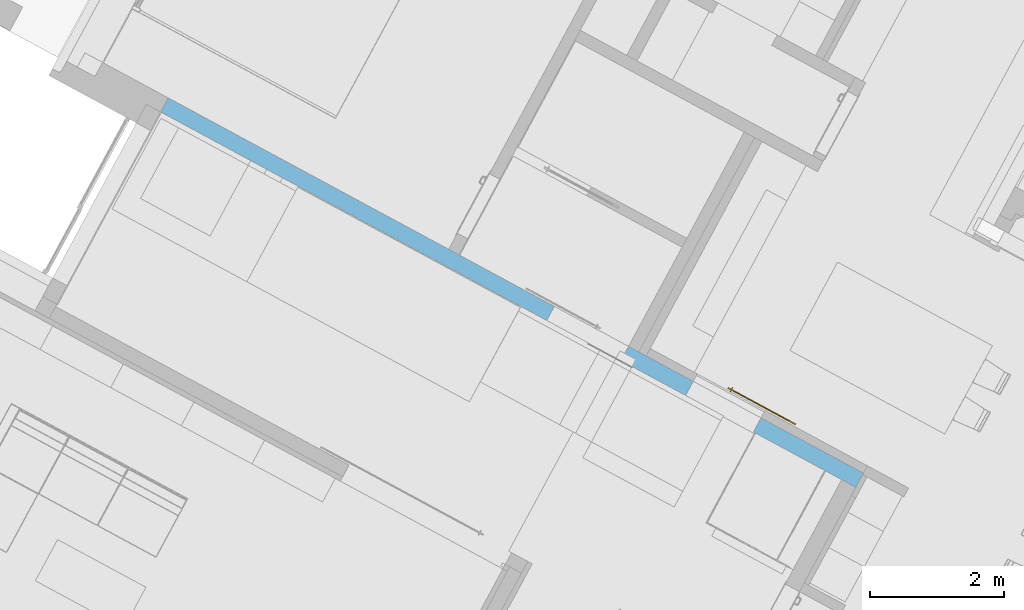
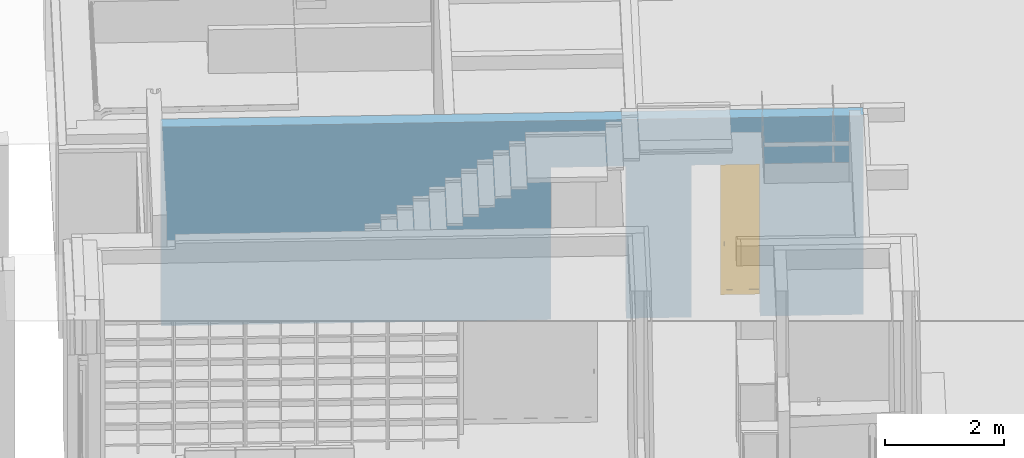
# One storey, part 15 of 52: 1 door, 2 openings, plus 1 element that does not belong to this part.
"""IFC2X3 building model written with IfcOpenShell, lengths in metres."""

from ifc_helpers import new_model, entity, si_unit, converted_unit, derived_unit, money_unit, direction, frame, origin_with_axes, origin_2d_with_axis, place, context, subcontext, project, spatial, rectangle, extrude, faceted_brep, material, type_object, element, fill, save


model = new_model("IFC2X3")

# Units and contexts
model_context = context("Model", 3, precision=1e-05, world=origin_with_axes(), true_north=direction((0.0, 1.0)))
body_context = subcontext(model_context, "Body", "Model", "MODEL_VIEW")
ifc_project = project(units=[si_unit("LENGTHUNIT", "METRE"), si_unit("AREAUNIT", "SQUARE_METRE"), si_unit("VOLUMEUNIT", "CUBIC_METRE"), converted_unit("PLANEANGLEUNIT", "DEGREE", entity("IfcPlaneAngleMeasure", 0.0174532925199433), si_unit("PLANEANGLEUNIT", "RADIAN"), dimensions=[0, 0, 0, 0, 0, 0, 0]), money_unit("EUR"), converted_unit("TIMEUNIT", "Year", entity("IfcTimeMeasure", 31556926.0), si_unit("TIMEUNIT", "SECOND"), dimensions=[0, 0, 1, 0, 0, 0, 0]), si_unit("MASSUNIT", "GRAM", prefix="KILO"), si_unit("THERMODYNAMICTEMPERATUREUNIT", "DEGREE_CELSIUS"), si_unit("LUMINOUSINTENSITYUNIT", "LUMEN"), si_unit("ENERGYUNIT", "JOULE", prefix="MEGA"), derived_unit("THERMALCONDUCTANCEUNIT", [(si_unit("POWERUNIT", "WATT"), 1), (si_unit("LENGTHUNIT", "METRE"), -1), (si_unit("THERMODYNAMICTEMPERATUREUNIT", "KELVIN"), -1)]), derived_unit("SPECIFICHEATCAPACITYUNIT", [(si_unit("ENERGYUNIT", "JOULE"), 1), (si_unit("MASSUNIT", "GRAM", prefix="KILO"), -1), (si_unit("THERMODYNAMICTEMPERATUREUNIT", "KELVIN"), -1)]), derived_unit("MASSDENSITYUNIT", [(si_unit("MASSUNIT", "GRAM", prefix="KILO"), 1), (si_unit("VOLUMEUNIT", "CUBIC_METRE"), -1)])], contexts=[model_context])

# Site, building, storey
site_placement = place(None, frame((-3.949935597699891, 1.740105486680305, 0.0), z_axis=(0.0, 0.0, 1.0), x_axis=(0.8799804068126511, -0.475009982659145, 0.0)))
site = spatial("IfcSite", under=ifc_project, at=site_placement, Name="Gelände", CompositionType="ELEMENT")
building_placement = place(site_placement, origin_with_axes())
building = spatial("IfcBuilding", under=site, at=building_placement, Name="Gebäude", CompositionType="ELEMENT")
storey_placement = place(building_placement, origin_with_axes())
storey = spatial("IfcBuildingStorey", under=building, at=storey_placement, Name="Erdgeschoss", CompositionType="ELEMENT", Elevation=0.0)

# Wall, openings, door
ifc_material = material(Name="_SIWH - Beton, Stahlbeton")
wall_type = type_object("IfcWallType", Name="_SIWH - WI | Stb. 24 | 24cm 240", PredefinedType="NOTDEFINED")
wall_placement = place(storey_placement, frame((5.59748143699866, 10.89780061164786, -0.18), z_axis=(0.0, 0.0, 1.0), x_axis=(0.9999999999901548, 4.437408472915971e-06, 0.0)))
wall = element("IfcWall", 1, at=wall_placement, inside=storey, type_object=wall_type, material=ifc_material, Name="I-Wand002", context=body_context, shape_type="Brep", body=[
    faceted_brep([(8.920006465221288, -3.958171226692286e-05, 3.12), (8.920006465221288, -3.958171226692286e-05, 0.18), (8.920005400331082, -3.958170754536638e-05, 0.0), (7.820006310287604, -3.470056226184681e-05, 0.0), (7.820007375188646, -3.470056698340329e-05, 0.18), (7.820007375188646, -3.470056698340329e-05, 3.12), (6.560007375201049, -2.910943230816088e-05, 3.12), (6.560007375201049, -2.910943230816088e-05, 0.18), (6.560006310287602, -2.91094275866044e-05, 0.0), (0.0, 0.0, 0.0), (0.0, 0.0, 4.080000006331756), (11.81000680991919, -5.240582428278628e-05, 4.080000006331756), (11.81000680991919, -5.240582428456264e-05, 0.0), (10.07000540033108, -4.46847272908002e-05, 0.0), (10.07000646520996, -4.468473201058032e-05, 0.18), (10.07000646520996, -4.468473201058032e-05, 3.12), (8.920005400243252, -0.2400395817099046, 3.12), (8.920005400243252, -0.2400395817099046, 0.18), (8.920005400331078, -0.2400395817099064, 0.0), (7.820006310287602, -0.2400347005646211, 0.0), (7.820006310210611, -0.2400347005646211, 0.18), (7.820006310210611, -0.2400347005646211, 3.12), (6.560006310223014, -0.2400291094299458, 3.12), (6.560006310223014, -0.2400291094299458, 0.18), (6.560006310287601, -0.2400291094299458, 0.0), (-1.064978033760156e-06, -0.2399999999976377, 0.0), (-1.064978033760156e-06, -0.2399999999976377, 4.080000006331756), (11.81000574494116, -0.2400524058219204, 4.080000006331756), (11.81000574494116, -0.2400524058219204, 0.0), (10.07000540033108, -0.2400446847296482, 0.0), (10.07000540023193, -0.2400446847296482, 0.18), (10.07000540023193, -0.2400446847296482, 3.12)], [[[0, 1, 2, 3, 4, 5, 6, 7, 8, 9, 10, 11, 12, 13, 14, 15]], [[1, 0, 16, 17]], [[1, 17, 18, 2]], [[18, 19, 3, 2]], [[4, 3, 19, 20]], [[4, 20, 21, 5]], [[5, 21, 22, 6]], [[6, 22, 23, 7]], [[23, 24, 8, 7]], [[24, 25, 9, 8]], [[25, 26, 10, 9]], [[27, 11, 10, 26]], [[11, 27, 28, 12]], [[13, 12, 28, 29]], [[30, 14, 13, 29]], [[15, 14, 30, 31]], [[0, 15, 31, 16]], [[31, 30, 29, 28, 27, 26, 25, 24, 23, 22, 21, 20, 19, 18, 17, 16]]]),
])
opening_1_placement = place(wall_placement, frame((7.190006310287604, 0.0, 0.18), z_axis=(0.0, 0.0, 1.0), x_axis=(1.0, 0.0, 0.0)))
element("IfcOpeningElement", 2, at=opening_1_placement, cuts=wall, Name="Tür-024", context=body_context, shape_type="SweptSolid", body=[
    extrude(rectangle(XDim=1.260000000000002, YDim=2.94, at=origin_2d_with_axis()), frame((1.153655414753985e-06, 0.01996809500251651, 1.47), z_axis=(4.437408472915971e-06, 0.9999999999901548, 0.0), x_axis=(0.9999999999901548, -4.437408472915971e-06, 0.0)), (0.0, 0.0, -1.0), 0.5),
    extrude(rectangle(XDim=1.260000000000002, YDim=2.94, at=origin_2d_with_axis()), frame((1.153655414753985e-06, 0.01996809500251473, 1.47), z_axis=(-4.437408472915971e-06, -0.9999999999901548, 0.0), x_axis=(0.9999999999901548, -4.437408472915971e-06, 0.0)), (0.0, 0.0, -1.0), 0.26),
])
opening_2_placement = place(wall_placement, frame((9.495005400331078, 0.0, 0.18), z_axis=(0.0, 0.0, 1.0), x_axis=(1.0, 0.0, 0.0)))
opening_2 = element("IfcOpeningElement", 3, at=opening_2_placement, cuts=wall, Name="Tür-024", context=body_context, shape_type="SweptSolid", body=[
    extrude(rectangle(XDim=1.149999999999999, YDim=2.94, at=origin_2d_with_axis()), frame((0.0, -0.2400000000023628, 1.47), z_axis=(-4.437408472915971e-06, -0.9999999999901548, 0.0), x_axis=(-0.9999999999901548, 4.437408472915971e-06, 0.0)), (0.0, 0.0, -1.0), 0.895),
])
door_style = type_object("IfcDoorStyle", Name="Schiebetür 02 1-Fl 26", ConstructionType="NOTDEFINED", OperationType="SLIDING_TO_LEFT", ParameterTakesPrecedence=False, Sizeable=False)
door_placement = place(opening_2_placement, frame((-0.5750000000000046, 0.0, 0.0), z_axis=(0.0, 0.0, 1.0), x_axis=(1.0, 0.0, 0.0)))
door = element("IfcDoor", 4, at=door_placement, inside=storey, type_object=door_style, Name="Tür-024", OverallHeight=2.94, OverallWidth=1.15, context=body_context, shape_type="Brep", body=[
    faceted_brep([(1.64995181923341, 0.1699530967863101, 0.09999999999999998), (1.64995173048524, 0.1499530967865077, 0.09999999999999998), (1.549951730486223, 0.1499535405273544, 0.09999999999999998), (1.549951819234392, 0.1699535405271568, 0.09999999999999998), (1.64995181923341, 0.1699530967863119, 2.8399), (1.64995173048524, 0.1499530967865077, 2.8399), (1.549951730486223, 0.1499535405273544, 2.8399), (1.549951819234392, 0.1699535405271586, 2.8399)], [[[0, 1, 2, 3]], [[4, 5, 1, 0]], [[1, 5, 6, 2]], [[3, 2, 6, 7]], [[0, 3, 7, 4]], [[7, 6, 5, 4]]]),
    faceted_brep([(0.5000518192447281, 0.1699581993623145, 2.8399), (0.5000517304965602, 0.1499581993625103, 2.8399), (0.6000517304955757, 0.1499577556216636, 2.8399), (0.6000518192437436, 0.1699577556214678, 2.8399), (0.5000518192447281, 0.1699581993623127, 0.09999999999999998), (0.5000517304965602, 0.1499581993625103, 0.09999999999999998), (0.6000517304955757, 0.1499577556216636, 0.09999999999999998), (0.6000518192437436, 0.169957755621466, 0.09999999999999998)], [[[0, 1, 2, 3]], [[4, 5, 1, 0]], [[1, 5, 6, 2]], [[3, 2, 6, 7]], [[0, 3, 7, 4]], [[7, 6, 5, 4]]]),
    faceted_brep([(0.5000518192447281, 0.1699581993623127, 0.0), (0.5000517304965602, 0.1499581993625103, 0.0), (0.5000517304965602, 0.1499581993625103, 0.09999999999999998), (0.5000518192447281, 0.1699581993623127, 0.09999999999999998), (1.64995181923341, 0.1699530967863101, 0.0), (1.64995173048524, 0.1499530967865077, 0.0), (1.64995173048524, 0.1499530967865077, 0.09999999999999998), (1.549951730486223, 0.1499535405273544, 0.09999999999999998), (0.6000517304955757, 0.1499577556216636, 0.09999999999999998), (0.6000518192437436, 0.169957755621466, 0.09999999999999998), (1.549951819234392, 0.1699535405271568, 0.09999999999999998), (1.64995181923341, 0.1699530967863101, 0.09999999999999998)], [[[0, 1, 2, 3]], [[4, 5, 1, 0]], [[1, 5, 6, 7, 8, 2]], [[3, 2, 8, 9]], [[0, 3, 9, 10, 11, 4]], [[11, 6, 5, 4]], [[10, 7, 6, 11]], [[9, 8, 7, 10]]]),
    faceted_brep([(1.64995181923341, 0.1699530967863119, 2.9399), (1.64995173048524, 0.1499530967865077, 2.9399), (1.64995173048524, 0.1499530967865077, 2.8399), (1.64995181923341, 0.1699530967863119, 2.8399), (0.5000518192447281, 0.1699581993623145, 2.9399), (0.5000517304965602, 0.1499581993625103, 2.9399), (0.5000517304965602, 0.1499581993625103, 2.8399), (0.6000517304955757, 0.1499577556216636, 2.8399), (1.549951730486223, 0.1499535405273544, 2.8399), (1.549951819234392, 0.1699535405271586, 2.8399), (0.6000518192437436, 0.1699577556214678, 2.8399), (0.5000518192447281, 0.1699581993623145, 2.8399)], [[[0, 1, 2, 3]], [[4, 5, 1, 0]], [[1, 5, 6, 7, 8, 2]], [[3, 2, 8, 9]], [[0, 3, 9, 10, 11, 4]], [[11, 6, 5, 4]], [[10, 7, 6, 11]], [[9, 8, 7, 10]]]),
    faceted_brep([(1.549951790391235, 0.1634535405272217, 0.09999999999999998), (1.549951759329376, 0.1564535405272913, 0.09999999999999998), (0.6000517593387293, 0.1564577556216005, 0.09999999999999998), (0.60005179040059, 0.1634577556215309, 0.09999999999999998), (1.549951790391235, 0.1634535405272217, 2.8399), (1.549951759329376, 0.1564535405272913, 2.8399), (0.6000517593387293, 0.1564577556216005, 2.8399), (0.60005179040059, 0.1634577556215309, 2.8399)], [[[0, 1, 2, 3]], [[4, 5, 1, 0]], [[1, 5, 6, 2]], [[3, 2, 6, 7]], [[0, 3, 7, 4]], [[7, 6, 5, 4]]]),
    faceted_brep([(0.5670516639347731, 0.134957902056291, 1.085980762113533), (0.5670517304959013, 0.1499579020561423, 1.09), (0.5661139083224, 0.1499579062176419, 1.0935), (0.5661138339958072, 0.1332079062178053, 1.089011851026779), (0.5661138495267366, 0.1367079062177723, 1.082949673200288), (0.5661139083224, 0.1499579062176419, 1.0865), (0.5635517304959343, 0.1499579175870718, 1.083937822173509), (0.5600517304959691, 0.1499579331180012, 1.083), (0.5565517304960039, 0.1499579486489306, 1.083937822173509), (0.5539895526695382, 0.1499579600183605, 1.0865), (0.5530517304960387, 0.1499579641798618, 1.09), (0.5539895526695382, 0.1499579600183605, 1.0935), (0.5565517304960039, 0.1499579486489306, 1.096062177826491), (0.5600517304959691, 0.1499579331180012, 1.097), (0.5635517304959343, 0.1499579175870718, 1.096062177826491), (0.5635516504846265, 0.1319268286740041, 1.091230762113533), (0.567051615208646, 0.1239771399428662, 1.075), (0.5661137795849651, 0.1209460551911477, 1.07675), (0.5635516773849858, 0.137989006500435, 1.080730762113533), (0.5661138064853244, 0.1270082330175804, 1.07325), (0.5600516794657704, 0.1384579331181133, 1.079918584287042), (0.5565516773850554, 0.1379890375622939, 1.080730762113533), (0.5539894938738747, 0.1367079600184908, 1.082949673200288), (0.5530516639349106, 0.1349579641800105, 1.085980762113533), (0.5539894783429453, 0.1332079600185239, 1.089011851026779), (0.5565516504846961, 0.1319268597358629, 1.091230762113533), (0.5600516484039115, 0.1314579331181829, 1.092042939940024), (0.5635515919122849, 0.1187271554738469, 1.078031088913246), (0.5670515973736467, 0.1199579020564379, 1.06), (0.5661137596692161, 0.1164579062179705, 1.06), (0.563551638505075, 0.1292271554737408, 1.071968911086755), (0.5661137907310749, 0.1234579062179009, 1.06), (0.5600516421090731, 0.1300393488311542, 1.0715), (0.5565516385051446, 0.1292271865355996, 1.071968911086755), (0.5539894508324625, 0.1270082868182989, 1.07325), (0.5530516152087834, 0.1239772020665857, 1.075), (0.5539894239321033, 0.1209461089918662, 1.07675), (0.5565515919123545, 0.1187271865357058, 1.078031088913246), (0.5600515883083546, 0.1179149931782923, 1.0785), (0.5635515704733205, 0.1138957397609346, 1.06), (0.5600515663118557, 0.1129579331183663, 1.06), (0.5565515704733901, 0.1138957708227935, 1.06), (0.5539894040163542, 0.116457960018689, 1.06), (0.5530515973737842, 0.1199579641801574, 1.06), (0.5539894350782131, 0.1234579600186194, 1.06), (0.5565516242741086, 0.1260201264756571, 1.06), (0.5600516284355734, 0.1269579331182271, 1.06), (0.563551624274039, 0.1260200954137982, 1.06)], [[[0, 1, 2, 3]], [[4, 5, 1, 0]], [[1, 5, 6, 7, 8, 9, 10, 11, 12, 13, 14, 2]], [[3, 2, 14, 15]], [[16, 0, 3, 17]], [[18, 6, 5, 4]], [[19, 4, 0, 16]], [[20, 7, 6, 18]], [[21, 8, 7, 20]], [[22, 9, 8, 21]], [[23, 10, 9, 22]], [[24, 11, 10, 23]], [[25, 12, 11, 24]], [[26, 13, 12, 25]], [[15, 14, 13, 26]], [[17, 3, 15, 27]], [[28, 16, 17, 29]], [[30, 18, 4, 19]], [[31, 19, 16, 28]], [[32, 20, 18, 30]], [[33, 21, 20, 32]], [[34, 22, 21, 33]], [[35, 23, 22, 34]], [[36, 24, 23, 35]], [[37, 25, 24, 36]], [[38, 26, 25, 37]], [[27, 15, 26, 38]], [[29, 17, 27, 39]], [[28, 29, 39, 40, 41, 42, 43, 44, 45, 46, 47, 31]], [[47, 30, 19, 31]], [[46, 32, 30, 47]], [[45, 33, 32, 46]], [[44, 34, 33, 45]], [[43, 35, 34, 44]], [[42, 36, 35, 43]], [[41, 37, 36, 42]], [[40, 38, 37, 41]], [[39, 27, 38, 40]]]),
    faceted_brep([(0.5530516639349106, 0.1349579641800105, 1.014019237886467), (0.5530517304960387, 0.1499579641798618, 1.01), (0.5539895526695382, 0.1499579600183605, 1.0065), (0.5539894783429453, 0.1332079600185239, 1.010988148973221), (0.5539894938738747, 0.1367079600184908, 1.017050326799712), (0.5539895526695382, 0.1499579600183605, 1.0135), (0.5565517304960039, 0.1499579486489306, 1.016062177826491), (0.5600517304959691, 0.1499579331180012, 1.017), (0.5635517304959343, 0.1499579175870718, 1.016062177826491), (0.5661139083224, 0.1499579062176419, 1.0135), (0.5670517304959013, 0.1499579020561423, 1.01), (0.5661139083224, 0.1499579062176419, 1.0065), (0.5635517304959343, 0.1499579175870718, 1.003937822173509), (0.5600517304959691, 0.1499579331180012, 1.003), (0.5565517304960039, 0.1499579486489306, 1.003937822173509), (0.5565516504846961, 0.1319268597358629, 1.008769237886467), (0.5530516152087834, 0.1239772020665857, 1.025), (0.5539894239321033, 0.1209461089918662, 1.02325), (0.5565516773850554, 0.1379890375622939, 1.019269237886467), (0.5539894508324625, 0.1270082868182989, 1.02675), (0.5600516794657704, 0.1384579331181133, 1.020081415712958), (0.5635516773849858, 0.137989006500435, 1.019269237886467), (0.5661138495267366, 0.1367079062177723, 1.017050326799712), (0.5670516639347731, 0.134957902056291, 1.014019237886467), (0.5661138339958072, 0.1332079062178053, 1.010988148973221), (0.5635516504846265, 0.1319268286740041, 1.008769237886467), (0.5600516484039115, 0.1314579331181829, 1.007957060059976), (0.5565515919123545, 0.1187271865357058, 1.021968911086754), (0.5530515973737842, 0.1199579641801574, 1.04), (0.5539894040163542, 0.116457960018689, 1.04), (0.5565516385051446, 0.1292271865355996, 1.028031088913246), (0.5539894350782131, 0.1234579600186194, 1.04), (0.5600516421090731, 0.1300393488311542, 1.0285), (0.563551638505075, 0.1292271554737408, 1.028031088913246), (0.5661138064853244, 0.1270082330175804, 1.02675), (0.567051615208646, 0.1239771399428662, 1.025), (0.5661137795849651, 0.1209460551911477, 1.02325), (0.5635515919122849, 0.1187271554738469, 1.021968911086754), (0.5600515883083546, 0.1179149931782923, 1.0215), (0.5565515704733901, 0.1138957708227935, 1.04), (0.5600515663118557, 0.1129579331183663, 1.04), (0.5635515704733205, 0.1138957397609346, 1.04), (0.5661137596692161, 0.1164579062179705, 1.04), (0.5670515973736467, 0.1199579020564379, 1.04), (0.5661137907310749, 0.1234579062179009, 1.04), (0.563551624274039, 0.1260200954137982, 1.04), (0.5600516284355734, 0.1269579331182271, 1.04), (0.5565516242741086, 0.1260201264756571, 1.04)], [[[0, 1, 2, 3]], [[4, 5, 1, 0]], [[1, 5, 6, 7, 8, 9, 10, 11, 12, 13, 14, 2]], [[3, 2, 14, 15]], [[16, 0, 3, 17]], [[18, 6, 5, 4]], [[19, 4, 0, 16]], [[20, 7, 6, 18]], [[21, 8, 7, 20]], [[22, 9, 8, 21]], [[23, 10, 9, 22]], [[24, 11, 10, 23]], [[25, 12, 11, 24]], [[26, 13, 12, 25]], [[15, 14, 13, 26]], [[17, 3, 15, 27]], [[28, 16, 17, 29]], [[30, 18, 4, 19]], [[31, 19, 16, 28]], [[32, 20, 18, 30]], [[33, 21, 20, 32]], [[34, 22, 21, 33]], [[35, 23, 22, 34]], [[36, 24, 23, 35]], [[37, 25, 24, 36]], [[38, 26, 25, 37]], [[27, 15, 26, 38]], [[29, 17, 27, 39]], [[28, 29, 39, 40, 41, 42, 43, 44, 45, 46, 47, 31]], [[47, 30, 19, 31]], [[46, 32, 30, 47]], [[45, 33, 32, 46]], [[44, 34, 33, 45]], [[43, 35, 34, 44]], [[42, 36, 35, 43]], [[41, 37, 36, 42]], [[40, 38, 37, 41]], [[39, 27, 38, 40]]]),
    faceted_brep([(0.5670515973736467, 0.1199579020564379, 1.04), (0.5661137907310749, 0.1234579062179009, 1.04), (0.5661137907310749, 0.1234579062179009, 1.06), (0.5670515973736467, 0.1199579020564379, 1.06), (0.5661137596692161, 0.1164579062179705, 1.04), (0.5635515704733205, 0.1138957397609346, 1.04), (0.5600515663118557, 0.1129579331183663, 1.04), (0.5565515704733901, 0.1138957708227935, 1.04), (0.5539894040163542, 0.116457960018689, 1.04), (0.5530515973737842, 0.1199579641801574, 1.04), (0.5539894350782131, 0.1234579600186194, 1.04), (0.5565516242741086, 0.1260201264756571, 1.04), (0.5600516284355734, 0.1269579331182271, 1.04), (0.563551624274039, 0.1260200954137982, 1.04), (0.563551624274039, 0.1260200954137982, 1.06), (0.5600516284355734, 0.1269579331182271, 1.06), (0.5565516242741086, 0.1260201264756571, 1.06), (0.5539894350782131, 0.1234579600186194, 1.06), (0.5530515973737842, 0.1199579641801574, 1.06), (0.5539894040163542, 0.116457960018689, 1.06), (0.5565515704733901, 0.1138957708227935, 1.06), (0.5600515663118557, 0.1129579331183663, 1.06), (0.5635515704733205, 0.1138957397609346, 1.06), (0.5661137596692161, 0.1164579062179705, 1.06)], [[[0, 1, 2, 3]], [[0, 4, 5, 6, 7, 8, 9, 10, 11, 12, 13, 1]], [[1, 13, 14, 2]], [[3, 2, 14, 15, 16, 17, 18, 19, 20, 21, 22, 23]], [[4, 0, 3, 23]], [[5, 4, 23, 22]], [[6, 5, 22, 21]], [[7, 6, 21, 20]], [[8, 7, 20, 19]], [[9, 8, 19, 18]], [[10, 9, 18, 17]], [[11, 10, 17, 16]], [[12, 11, 16, 15]], [[13, 12, 15, 14]]]),
    faceted_brep([(0.5670518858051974, 0.1849579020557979, 1.085980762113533), (0.5661140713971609, 0.1867079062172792, 1.089011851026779), (0.566113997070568, 0.1699579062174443, 1.0935), (0.5670518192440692, 0.1699579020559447, 1.09), (0.5670519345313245, 0.1959386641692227, 1.075), (0.5661141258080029, 0.1989697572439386, 1.07675), (0.56355189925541, 0.1879890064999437, 1.091230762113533), (0.5635518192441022, 0.1699579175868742, 1.096062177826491), (0.560051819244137, 0.1699579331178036, 1.097), (0.5565518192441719, 0.169957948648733, 1.096062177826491), (0.5539896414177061, 0.1699579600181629, 1.0935), (0.5530518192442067, 0.1699579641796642, 1.09), (0.5539896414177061, 0.1699579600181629, 1.0865), (0.5565518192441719, 0.169957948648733, 1.083937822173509), (0.560051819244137, 0.1699579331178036, 1.083), (0.5635518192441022, 0.1699579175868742, 1.083937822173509), (0.566113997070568, 0.1699579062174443, 1.0865), (0.5661140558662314, 0.183207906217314, 1.082949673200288), (0.5670519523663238, 0.1999579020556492, 1.06), (0.566114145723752, 0.203457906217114, 1.06), (0.5635519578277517, 0.2011886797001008, 1.078031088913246), (0.5661140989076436, 0.1929075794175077, 1.07325), (0.5600519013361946, 0.1884579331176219, 1.092042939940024), (0.5565518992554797, 0.1879890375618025, 1.091230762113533), (0.553989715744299, 0.1867079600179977, 1.089011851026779), (0.5530518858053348, 0.1849579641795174, 1.085980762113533), (0.5539897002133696, 0.1832079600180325, 1.082949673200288), (0.5565518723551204, 0.1819268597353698, 1.080730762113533), (0.5600518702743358, 0.1814579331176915, 1.079918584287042), (0.5635518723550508, 0.181926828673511, 1.080730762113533), (0.5661141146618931, 0.1964579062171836, 1.06), (0.5635519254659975, 0.1938957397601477, 1.06), (0.5600519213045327, 0.1929579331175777, 1.06), (0.5565519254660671, 0.1938957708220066, 1.06), (0.5539897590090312, 0.1964579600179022, 1.06), (0.5530519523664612, 0.1999579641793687, 1.06), (0.5539897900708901, 0.2034579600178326, 1.06), (0.5565519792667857, 0.2060201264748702, 1.06), (0.5600519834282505, 0.2069579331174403, 1.06), (0.5635519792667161, 0.2060200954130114, 1.06), (0.5600519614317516, 0.2020008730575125, 1.0785), (0.5635519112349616, 0.1906886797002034, 1.071968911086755), (0.5565519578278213, 0.2011887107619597, 1.078031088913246), (0.5539897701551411, 0.1989698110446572, 1.07675), (0.553051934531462, 0.1959387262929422, 1.075), (0.5539897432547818, 0.1929076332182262, 1.07325), (0.5565519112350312, 0.1906887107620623, 1.071968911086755), (0.5600519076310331, 0.1898765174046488, 1.0715)], [[[0, 1, 2, 3]], [[4, 5, 1, 0]], [[1, 6, 7, 2]], [[3, 2, 7, 8, 9, 10, 11, 12, 13, 14, 15, 16]], [[17, 0, 3, 16]], [[18, 19, 5, 4]], [[5, 20, 6, 1]], [[21, 4, 0, 17]], [[6, 22, 8, 7]], [[22, 23, 9, 8]], [[23, 24, 10, 9]], [[24, 25, 11, 10]], [[25, 26, 12, 11]], [[26, 27, 13, 12]], [[27, 28, 14, 13]], [[28, 29, 15, 14]], [[29, 17, 16, 15]], [[18, 30, 31, 32, 33, 34, 35, 36, 37, 38, 39, 19]], [[19, 39, 20, 5]], [[30, 18, 4, 21]], [[20, 40, 22, 6]], [[41, 21, 17, 29]], [[40, 42, 23, 22]], [[42, 43, 24, 23]], [[43, 44, 25, 24]], [[44, 45, 26, 25]], [[45, 46, 27, 26]], [[46, 47, 28, 27]], [[47, 41, 29, 28]], [[31, 30, 21, 41]], [[32, 31, 41, 47]], [[33, 32, 47, 46]], [[34, 33, 46, 45]], [[35, 34, 45, 44]], [[36, 35, 44, 43]], [[37, 36, 43, 42]], [[38, 37, 42, 40]], [[39, 38, 40, 20]]]),
    faceted_brep([(0.5530518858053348, 0.1849579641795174, 1.014019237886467), (0.553989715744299, 0.1867079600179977, 1.010988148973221), (0.5539896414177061, 0.1699579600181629, 1.0065), (0.5530518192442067, 0.1699579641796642, 1.01), (0.553051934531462, 0.1959387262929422, 1.025), (0.5539897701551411, 0.1989698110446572, 1.02325), (0.5565518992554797, 0.1879890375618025, 1.008769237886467), (0.5565518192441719, 0.169957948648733, 1.003937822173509), (0.560051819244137, 0.1699579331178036, 1.003), (0.5635518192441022, 0.1699579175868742, 1.003937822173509), (0.566113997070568, 0.1699579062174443, 1.0065), (0.5670518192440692, 0.1699579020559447, 1.01), (0.566113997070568, 0.1699579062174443, 1.0135), (0.5635518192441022, 0.1699579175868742, 1.016062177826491), (0.560051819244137, 0.1699579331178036, 1.017), (0.5565518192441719, 0.169957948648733, 1.016062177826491), (0.5539896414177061, 0.1699579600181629, 1.0135), (0.5539897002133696, 0.1832079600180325, 1.017050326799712), (0.5530519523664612, 0.1999579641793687, 1.04), (0.5539897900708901, 0.2034579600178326, 1.04), (0.5565519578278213, 0.2011887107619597, 1.021968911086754), (0.5539897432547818, 0.1929076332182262, 1.02675), (0.5600519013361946, 0.1884579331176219, 1.007957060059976), (0.56355189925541, 0.1879890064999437, 1.008769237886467), (0.5661140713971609, 0.1867079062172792, 1.010988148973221), (0.5670518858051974, 0.1849579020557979, 1.014019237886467), (0.5661140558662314, 0.183207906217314, 1.017050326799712), (0.5635518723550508, 0.181926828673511, 1.019269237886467), (0.5600518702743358, 0.1814579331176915, 1.020081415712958), (0.5565518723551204, 0.1819268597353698, 1.019269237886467), (0.5539897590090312, 0.1964579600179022, 1.04), (0.5565519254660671, 0.1938957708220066, 1.04), (0.5600519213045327, 0.1929579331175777, 1.04), (0.5635519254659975, 0.1938957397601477, 1.04), (0.5661141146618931, 0.1964579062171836, 1.04), (0.5670519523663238, 0.1999579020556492, 1.04), (0.566114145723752, 0.203457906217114, 1.04), (0.5635519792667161, 0.2060200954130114, 1.04), (0.5600519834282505, 0.2069579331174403, 1.04), (0.5565519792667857, 0.2060201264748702, 1.04), (0.5600519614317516, 0.2020008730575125, 1.0215), (0.5565519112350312, 0.1906887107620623, 1.028031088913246), (0.5635519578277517, 0.2011886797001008, 1.021968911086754), (0.5661141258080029, 0.1989697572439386, 1.02325), (0.5670519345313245, 0.1959386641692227, 1.025), (0.5661140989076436, 0.1929075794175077, 1.02675), (0.5635519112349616, 0.1906886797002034, 1.028031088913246), (0.5600519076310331, 0.1898765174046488, 1.0285)], [[[0, 1, 2, 3]], [[4, 5, 1, 0]], [[1, 6, 7, 2]], [[3, 2, 7, 8, 9, 10, 11, 12, 13, 14, 15, 16]], [[17, 0, 3, 16]], [[18, 19, 5, 4]], [[5, 20, 6, 1]], [[21, 4, 0, 17]], [[6, 22, 8, 7]], [[22, 23, 9, 8]], [[23, 24, 10, 9]], [[24, 25, 11, 10]], [[25, 26, 12, 11]], [[26, 27, 13, 12]], [[27, 28, 14, 13]], [[28, 29, 15, 14]], [[29, 17, 16, 15]], [[18, 30, 31, 32, 33, 34, 35, 36, 37, 38, 39, 19]], [[19, 39, 20, 5]], [[30, 18, 4, 21]], [[20, 40, 22, 6]], [[41, 21, 17, 29]], [[40, 42, 23, 22]], [[42, 43, 24, 23]], [[43, 44, 25, 24]], [[44, 45, 26, 25]], [[45, 46, 27, 26]], [[46, 47, 28, 27]], [[47, 41, 29, 28]], [[31, 30, 21, 41]], [[32, 31, 41, 47]], [[33, 32, 47, 46]], [[34, 33, 46, 45]], [[35, 34, 45, 44]], [[36, 35, 44, 43]], [[37, 36, 43, 42]], [[38, 37, 42, 40]], [[39, 38, 40, 20]]]),
    faceted_brep([(0.5670519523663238, 0.1999579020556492, 1.04), (0.5670519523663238, 0.1999579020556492, 1.06), (0.5661141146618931, 0.1964579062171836, 1.06), (0.5661141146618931, 0.1964579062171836, 1.04), (0.566114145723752, 0.203457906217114, 1.04), (0.566114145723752, 0.203457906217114, 1.06), (0.5635519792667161, 0.2060200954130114, 1.06), (0.5600519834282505, 0.2069579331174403, 1.06), (0.5565519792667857, 0.2060201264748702, 1.06), (0.5539897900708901, 0.2034579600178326, 1.06), (0.5530519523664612, 0.1999579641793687, 1.06), (0.5539897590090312, 0.1964579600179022, 1.06), (0.5565519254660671, 0.1938957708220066, 1.06), (0.5600519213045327, 0.1929579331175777, 1.06), (0.5635519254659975, 0.1938957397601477, 1.06), (0.5635519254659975, 0.1938957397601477, 1.04), (0.5600519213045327, 0.1929579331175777, 1.04), (0.5565519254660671, 0.1938957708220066, 1.04), (0.5539897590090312, 0.1964579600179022, 1.04), (0.5530519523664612, 0.1999579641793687, 1.04), (0.5539897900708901, 0.2034579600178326, 1.04), (0.5565519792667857, 0.2060201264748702, 1.04), (0.5600519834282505, 0.2069579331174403, 1.04), (0.5635519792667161, 0.2060200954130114, 1.04)], [[[0, 1, 2, 3]], [[4, 5, 1, 0]], [[1, 5, 6, 7, 8, 9, 10, 11, 12, 13, 14, 2]], [[3, 2, 14, 15]], [[0, 3, 15, 16, 17, 18, 19, 20, 21, 22, 23, 4]], [[23, 6, 5, 4]], [[22, 7, 6, 23]], [[21, 8, 7, 22]], [[20, 9, 8, 21]], [[19, 10, 9, 20]], [[18, 11, 10, 19]], [[17, 12, 11, 18]], [[16, 13, 12, 17]], [[15, 14, 13, 16]]]),
])
fill(opening_2, door)

save(model, "model.ifc")
